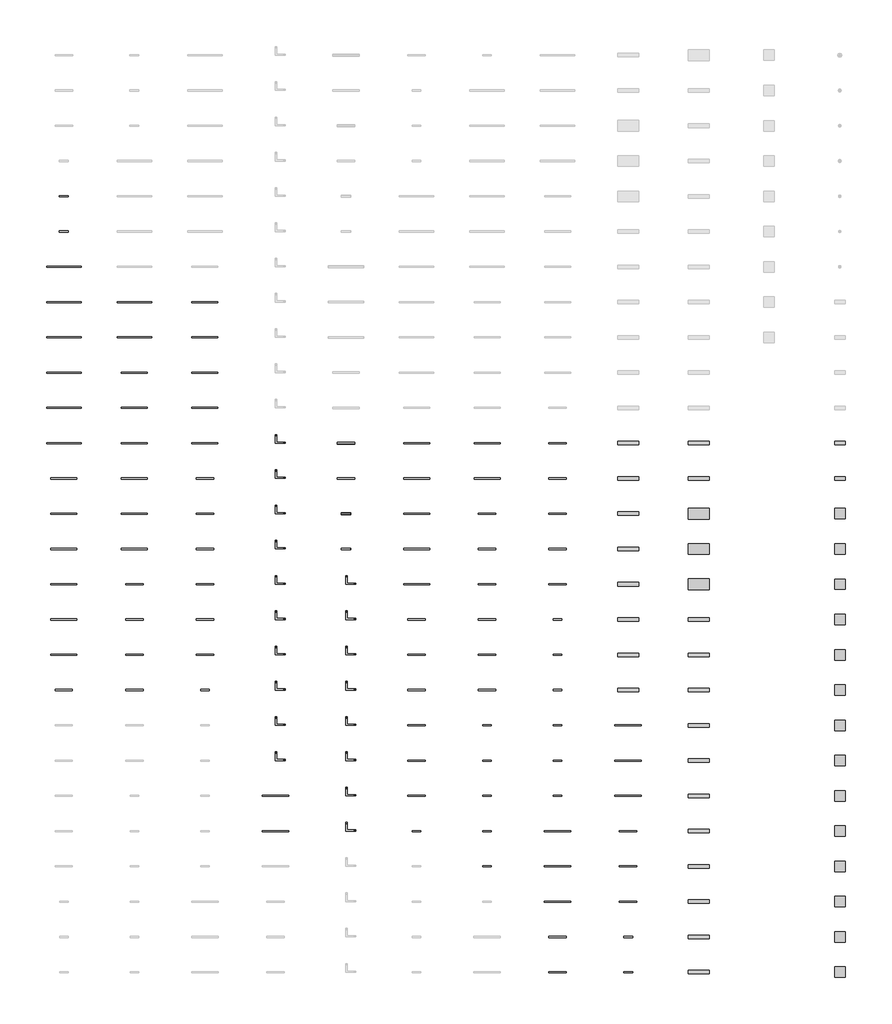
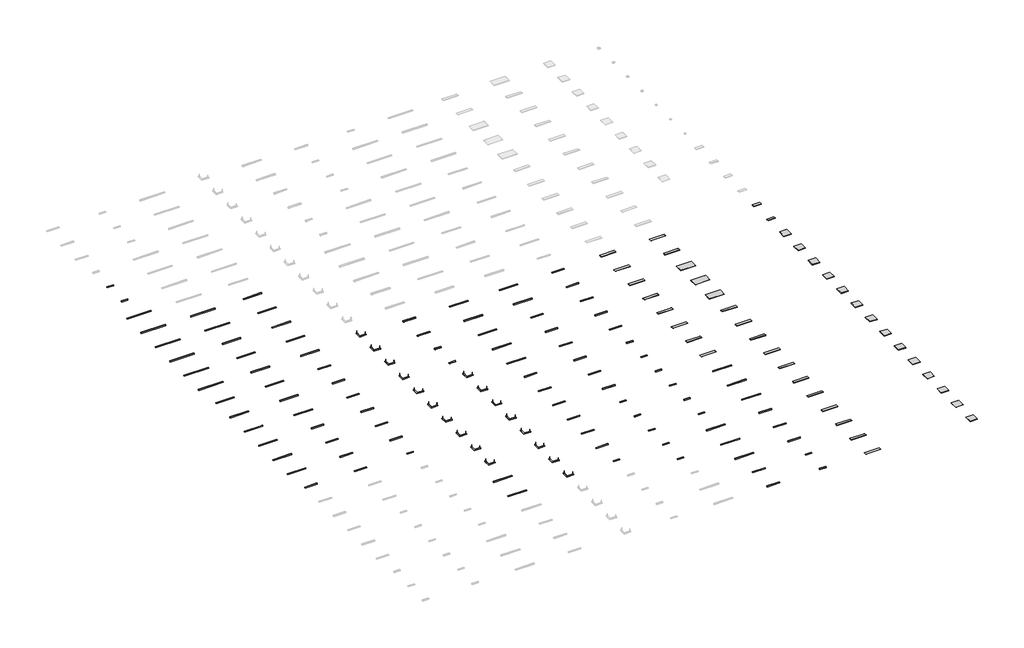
# One storey, part 6 of 7: 152 light fixtures.
"""IFC4 building model written with IfcOpenShell, lengths in millimetres."""

from ifc_helpers import new_model, si_unit, origin, place, context, project, spatial, transform, mapped, element, save
from components import light_fixture_045715e0, light_fixture_9e089268, light_fixture_96eaa53e, light_fixture_260f1384, light_fixture_90001b4d, light_fixture_5221eba1, light_fixture_b40a6a63, light_fixture_8643cc04, light_fixture_5198e44a, light_fixture_2bea209e, light_fixture_50d0131d, light_fixture_13749f30, light_fixture_eaf00b14, light_fixture_4e9e6f2b, light_fixture_f376c791, light_fixture_10212c1c, light_fixture_d129a5be

model = new_model("IFC4")

# Units and contexts
model_context = context("Model", 3, world=origin())
ifc_project = project(units=[si_unit("LENGTHUNIT", "METRE", prefix="MILLI")], contexts=[model_context])

# Site, building, storey
site = spatial("IfcSite", under=ifc_project)
building = spatial("IfcBuilding", under=site)
storey = spatial("IfcBuildingStorey", under=building, Name="Уровень 1", Elevation=0.0)

# Light fixtures
placement = place(None, origin())
light_fixture_shape = light_fixture_045715e0(model_context)
element("IfcLightFixture", 1, ObjectType="GENILED_Светильник светодиодный_Trade Linear Advanced : Trade Linear Advanced 980х65х60 60Вт Deep Черный 3000К", at=placement, inside=storey, context=model_context, shape_type="MappedRepresentation", body=[
    mapped(light_fixture_shape, transform((132000.0, 16000.0, 0.0), x_axis=(1.0, 0.0, 0.0), y_axis=(0.0, 1.0, 0.0), z_axis=(0.0, 0.0, 1.0))),
])
light_fixture_2_shape = light_fixture_9e089268(model_context)
element("IfcLightFixture", 2, ObjectType="GENILED_Светильник светодиодный_Trade Linear Advanced : Trade Linear Advanced 1472х65х60 30Вт Черный 3000К", at=placement, inside=storey, context=model_context, shape_type="MappedRepresentation", body=[
    mapped(light_fixture_2_shape, transform((132000.0, 18000.0, 0.0), x_axis=(1.0, 0.0, 0.0), y_axis=(0.0, 1.0, 0.0), z_axis=(0.0, 0.0, 1.0))),
])
element("IfcLightFixture", 3, ObjectType="GENILED_Светильник светодиодный_Trade Linear Advanced : Trade Linear Advanced 1472х65х60 60Вт Черный 3000К", at=placement, inside=storey, context=model_context, shape_type="MappedRepresentation", body=[
    mapped(light_fixture_2_shape, transform((132000.0, 20000.0, 0.0), x_axis=(1.0, 0.0, 0.0), y_axis=(0.0, 1.0, 0.0), z_axis=(0.0, 0.0, 1.0))),
])
element("IfcLightFixture", 4, ObjectType="GENILED_Светильник светодиодный_Trade Linear Advanced : Trade Linear Advanced 1472х65х60 90Вт Черный 3000К", at=placement, inside=storey, context=model_context, shape_type="MappedRepresentation", body=[
    mapped(light_fixture_2_shape, transform((132000.0, 22000.0, 0.0), x_axis=(1.0, 0.0, 0.0), y_axis=(0.0, 1.0, 0.0), z_axis=(0.0, 0.0, 1.0))),
])
element("IfcLightFixture", 5, ObjectType="GENILED_Светильник светодиодный_Trade Linear Advanced : Trade Linear Advanced 1472х65х60 30Вт Deep Черный 3000К", at=placement, inside=storey, context=model_context, shape_type="MappedRepresentation", body=[
    mapped(light_fixture_2_shape, transform((132000.0, 24000.0, 0.0), x_axis=(1.0, 0.0, 0.0), y_axis=(0.0, 1.0, 0.0), z_axis=(0.0, 0.0, 1.0))),
])
element("IfcLightFixture", 6, ObjectType="GENILED_Светильник светодиодный_Trade Linear Advanced : Trade Linear Advanced 1472х65х60 60Вт Deep Черный 3000К", at=placement, inside=storey, context=model_context, shape_type="MappedRepresentation", body=[
    mapped(light_fixture_2_shape, transform((132000.0, 26000.0, 0.0), x_axis=(1.0, 0.0, 0.0), y_axis=(0.0, 1.0, 0.0), z_axis=(0.0, 0.0, 1.0))),
])
element("IfcLightFixture", 7, ObjectType="GENILED_Светильник светодиодный_Trade Linear Advanced : Trade Linear Advanced 1472х65х60 90Вт Deep Черный 3000К", at=placement, inside=storey, context=model_context, shape_type="MappedRepresentation", body=[
    mapped(light_fixture_2_shape, transform((132000.0, 28000.0, 0.0), x_axis=(1.0, 0.0, 0.0), y_axis=(0.0, 1.0, 0.0), z_axis=(0.0, 0.0, 1.0))),
])
light_fixture_3_shape = light_fixture_96eaa53e(model_context)
element("IfcLightFixture", 8, ObjectType="GENILED_Светильник светодиодный_Trade Linear Advanced : Trade Linear Advanced 1962х65х60 40Вт Черный 3000К", at=placement, inside=storey, context=model_context, shape_type="MappedRepresentation", body=[
    mapped(light_fixture_3_shape, transform((132000.0, 30000.0, 0.0), x_axis=(1.0, 0.0, 0.0), y_axis=(0.0, 1.0, 0.0), z_axis=(0.0, 0.0, 1.0))),
])
element("IfcLightFixture", 9, ObjectType="GENILED_Светильник светодиодный_Trade Linear Advanced : Trade Linear Advanced 1962х65х60 80Вт Черный 3000К", at=placement, inside=storey, context=model_context, shape_type="MappedRepresentation", body=[
    mapped(light_fixture_3_shape, transform((132000.0, 32000.0, 0.0), x_axis=(1.0, 0.0, 0.0), y_axis=(0.0, 1.0, 0.0), z_axis=(0.0, 0.0, 1.0))),
])
element("IfcLightFixture", 10, ObjectType="GENILED_Светильник светодиодный_Trade Linear Advanced : Trade Linear Advanced 1962х65х60 120Вт Черный 3000К", at=placement, inside=storey, context=model_context, shape_type="MappedRepresentation", body=[
    mapped(light_fixture_3_shape, transform((132000.0, 34000.0, 0.0), x_axis=(1.0, 0.0, 0.0), y_axis=(0.0, 1.0, 0.0), z_axis=(0.0, 0.0, 1.0))),
])
element("IfcLightFixture", 11, ObjectType="GENILED_Светильник светодиодный_Trade Linear Advanced : Trade Linear Advanced 1962х65х60 40Вт Deep Черный 3000К", at=placement, inside=storey, context=model_context, shape_type="MappedRepresentation", body=[
    mapped(light_fixture_3_shape, transform((132000.0, 36000.0, 0.0), x_axis=(1.0, 0.0, 0.0), y_axis=(0.0, 1.0, 0.0), z_axis=(0.0, 0.0, 1.0))),
])
element("IfcLightFixture", 12, ObjectType="GENILED_Светильник светодиодный_Trade Linear Advanced : Trade Linear Advanced 1962х65х60 80Вт Deep Черный 3000К", at=placement, inside=storey, context=model_context, shape_type="MappedRepresentation", body=[
    mapped(light_fixture_3_shape, transform((132000.0, 38000.0, 0.0), x_axis=(1.0, 0.0, 0.0), y_axis=(0.0, 1.0, 0.0), z_axis=(0.0, 0.0, 1.0))),
])
element("IfcLightFixture", 13, ObjectType="GENILED_Светильник светодиодный_Trade Linear Advanced : Trade Linear Advanced 1962х65х60 120Вт Deep Черный 3000К", at=placement, inside=storey, context=model_context, shape_type="MappedRepresentation", body=[
    mapped(light_fixture_3_shape, transform((132000.0, 40000.0, 0.0), x_axis=(1.0, 0.0, 0.0), y_axis=(0.0, 1.0, 0.0), z_axis=(0.0, 0.0, 1.0))),
])
light_fixture_4_shape = light_fixture_260f1384(model_context)
element("IfcLightFixture", 14, ObjectType="GENILED_Светильник светодиодный_Trade Linear Advanced : Trade Linear Advanced 500х65х60 10Вт IP54 Черный 3000К", at=placement, inside=storey, context=model_context, shape_type="MappedRepresentation", body=[
    mapped(light_fixture_4_shape, transform((132000.0, 42000.0, 0.0), x_axis=(1.0, 0.0, 0.0), y_axis=(0.0, 1.0, 0.0), z_axis=(0.0, 0.0, 1.0))),
])
element("IfcLightFixture", 15, ObjectType="GENILED_Светильник светодиодный_Trade Linear Advanced : Trade Linear Advanced 500х65х60 20Вт IP54 Черный 3000К", at=placement, inside=storey, context=model_context, shape_type="MappedRepresentation", body=[
    mapped(light_fixture_4_shape, transform((132000.0, 44000.0, 0.0), x_axis=(1.0, 0.0, 0.0), y_axis=(0.0, 1.0, 0.0), z_axis=(0.0, 0.0, 1.0))),
])
element("IfcLightFixture", 16, ObjectType="GENILED_Светильник светодиодный_Trade Linear Advanced : Trade Linear Advanced 980x65x60 60Вт Черный 4000К", at=placement, inside=storey, context=model_context, shape_type="MappedRepresentation", body=[
    mapped(light_fixture_shape, transform((136000.0, 16000.0, 0.0), x_axis=(1.0, 0.0, 0.0), y_axis=(0.0, 1.0, 0.0), z_axis=(0.0, 0.0, 1.0))),
])
element("IfcLightFixture", 17, ObjectType="GENILED_Светильник светодиодный_Trade Linear Advanced : Trade Linear Advanced 980x65x60 20Вт Deep Черный 4000К", at=placement, inside=storey, context=model_context, shape_type="MappedRepresentation", body=[
    mapped(light_fixture_shape, transform((136000.0, 18000.0, 0.0), x_axis=(1.0, 0.0, 0.0), y_axis=(0.0, 1.0, 0.0), z_axis=(0.0, 0.0, 1.0))),
])
element("IfcLightFixture", 18, ObjectType="GENILED_Светильник светодиодный_Trade Linear Advanced : Trade Linear Advanced 980x65x60 40Вт Deep Черный 4000К", at=placement, inside=storey, context=model_context, shape_type="MappedRepresentation", body=[
    mapped(light_fixture_shape, transform((136000.0, 20000.0, 0.0), x_axis=(1.0, 0.0, 0.0), y_axis=(0.0, 1.0, 0.0), z_axis=(0.0, 0.0, 1.0))),
])
element("IfcLightFixture", 19, ObjectType="GENILED_Светильник светодиодный_Trade Linear Advanced : Trade Linear Advanced 980x65x60 60Вт Deep Черный 4000К", at=placement, inside=storey, context=model_context, shape_type="MappedRepresentation", body=[
    mapped(light_fixture_shape, transform((136000.0, 22000.0, 0.0), x_axis=(1.0, 0.0, 0.0), y_axis=(0.0, 1.0, 0.0), z_axis=(0.0, 0.0, 1.0))),
])
element("IfcLightFixture", 20, ObjectType="GENILED_Светильник светодиодный_Trade Linear Advanced : Trade Linear Advanced 1472x65x60 30Вт Черный 4000К", at=placement, inside=storey, context=model_context, shape_type="MappedRepresentation", body=[
    mapped(light_fixture_2_shape, transform((136000.0, 24000.0, 0.0), x_axis=(1.0, 0.0, 0.0), y_axis=(0.0, 1.0, 0.0), z_axis=(0.0, 0.0, 1.0))),
])
element("IfcLightFixture", 21, ObjectType="GENILED_Светильник светодиодный_Trade Linear Advanced : Trade Linear Advanced 1472x65x60 60Вт Черный 4000К", at=placement, inside=storey, context=model_context, shape_type="MappedRepresentation", body=[
    mapped(light_fixture_2_shape, transform((136000.0, 26000.0, 0.0), x_axis=(1.0, 0.0, 0.0), y_axis=(0.0, 1.0, 0.0), z_axis=(0.0, 0.0, 1.0))),
])
element("IfcLightFixture", 22, ObjectType="GENILED_Светильник светодиодный_Trade Linear Advanced : Trade Linear Advanced 1472x65x60 90Вт Черный 4000К", at=placement, inside=storey, context=model_context, shape_type="MappedRepresentation", body=[
    mapped(light_fixture_2_shape, transform((136000.0, 28000.0, 0.0), x_axis=(1.0, 0.0, 0.0), y_axis=(0.0, 1.0, 0.0), z_axis=(0.0, 0.0, 1.0))),
])
element("IfcLightFixture", 23, ObjectType="GENILED_Светильник светодиодный_Trade Linear Advanced : Trade Linear Advanced 1472x65x60 30Вт Deep Черный 4000К", at=placement, inside=storey, context=model_context, shape_type="MappedRepresentation", body=[
    mapped(light_fixture_2_shape, transform((136000.0, 30000.0, 0.0), x_axis=(1.0, 0.0, 0.0), y_axis=(0.0, 1.0, 0.0), z_axis=(0.0, 0.0, 1.0))),
])
element("IfcLightFixture", 24, ObjectType="GENILED_Светильник светодиодный_Trade Linear Advanced : Trade Linear Advanced 1472x65x60 60Вт Deep Черный 4000К", at=placement, inside=storey, context=model_context, shape_type="MappedRepresentation", body=[
    mapped(light_fixture_2_shape, transform((136000.0, 32000.0, 0.0), x_axis=(1.0, 0.0, 0.0), y_axis=(0.0, 1.0, 0.0), z_axis=(0.0, 0.0, 1.0))),
])
element("IfcLightFixture", 25, ObjectType="GENILED_Светильник светодиодный_Trade Linear Advanced : Trade Linear Advanced 1472x65x60 90Вт Deep Черный 4000К", at=placement, inside=storey, context=model_context, shape_type="MappedRepresentation", body=[
    mapped(light_fixture_2_shape, transform((136000.0, 34000.0, 0.0), x_axis=(1.0, 0.0, 0.0), y_axis=(0.0, 1.0, 0.0), z_axis=(0.0, 0.0, 1.0))),
])
element("IfcLightFixture", 26, ObjectType="GENILED_Светильник светодиодный_Trade Linear Advanced : Trade Linear Advanced 1962x65x60 40Вт Черный 4000К", at=placement, inside=storey, context=model_context, shape_type="MappedRepresentation", body=[
    mapped(light_fixture_3_shape, transform((136000.0, 36000.0, 0.0), x_axis=(1.0, 0.0, 0.0), y_axis=(0.0, 1.0, 0.0), z_axis=(0.0, 0.0, 1.0))),
])
element("IfcLightFixture", 27, ObjectType="GENILED_Светильник светодиодный_Trade Linear Advanced : Trade Linear Advanced 1962x65x60 80Вт Черный 4000К", at=placement, inside=storey, context=model_context, shape_type="MappedRepresentation", body=[
    mapped(light_fixture_3_shape, transform((136000.0, 38000.0, 0.0), x_axis=(1.0, 0.0, 0.0), y_axis=(0.0, 1.0, 0.0), z_axis=(0.0, 0.0, 1.0))),
])
light_fixture_5_shape = light_fixture_90001b4d(model_context)
element("IfcLightFixture", 28, ObjectType="GENILED_Светильник светодиодный_Trade Linear Advanced : Trade Linear Advanced 490x65x60 30Вт Deep Черный 5000К", at=placement, inside=storey, context=model_context, shape_type="MappedRepresentation", body=[
    mapped(light_fixture_5_shape, transform((140000.0, 16000.0, 0.0), x_axis=(1.0, 0.0, 0.0), y_axis=(0.0, 1.0, 0.0), z_axis=(0.0, 0.0, 1.0))),
])
element("IfcLightFixture", 29, ObjectType="GENILED_Светильник светодиодный_Trade Linear Advanced : Trade Linear Advanced 980x65x60 20Вт Черный 5000К", at=placement, inside=storey, context=model_context, shape_type="MappedRepresentation", body=[
    mapped(light_fixture_shape, transform((140000.0, 18000.0, 0.0), x_axis=(1.0, 0.0, 0.0), y_axis=(0.0, 1.0, 0.0), z_axis=(0.0, 0.0, 1.0))),
])
element("IfcLightFixture", 30, ObjectType="GENILED_Светильник светодиодный_Trade Linear Advanced : Trade Linear Advanced 980x65x60 40Вт Черный 5000К", at=placement, inside=storey, context=model_context, shape_type="MappedRepresentation", body=[
    mapped(light_fixture_shape, transform((140000.0, 20000.0, 0.0), x_axis=(1.0, 0.0, 0.0), y_axis=(0.0, 1.0, 0.0), z_axis=(0.0, 0.0, 1.0))),
])
element("IfcLightFixture", 31, ObjectType="GENILED_Светильник светодиодный_Trade Linear Advanced : Trade Linear Advanced 980x65x60 60Вт Черный 5000К", at=placement, inside=storey, context=model_context, shape_type="MappedRepresentation", body=[
    mapped(light_fixture_shape, transform((140000.0, 22000.0, 0.0), x_axis=(1.0, 0.0, 0.0), y_axis=(0.0, 1.0, 0.0), z_axis=(0.0, 0.0, 1.0))),
])
element("IfcLightFixture", 32, ObjectType="GENILED_Светильник светодиодный_Trade Linear Advanced : Trade Linear Advanced 980x65x60 20Вт Deep Черный 5000К", at=placement, inside=storey, context=model_context, shape_type="MappedRepresentation", body=[
    mapped(light_fixture_shape, transform((140000.0, 24000.0, 0.0), x_axis=(1.0, 0.0, 0.0), y_axis=(0.0, 1.0, 0.0), z_axis=(0.0, 0.0, 1.0))),
])
element("IfcLightFixture", 33, ObjectType="GENILED_Светильник светодиодный_Trade Linear Advanced : Trade Linear Advanced 980x65x60 40Вт Deep Черный 5000К", at=placement, inside=storey, context=model_context, shape_type="MappedRepresentation", body=[
    mapped(light_fixture_shape, transform((140000.0, 26000.0, 0.0), x_axis=(1.0, 0.0, 0.0), y_axis=(0.0, 1.0, 0.0), z_axis=(0.0, 0.0, 1.0))),
])
element("IfcLightFixture", 34, ObjectType="GENILED_Светильник светодиодный_Trade Linear Advanced : Trade Linear Advanced 980x65x60 60Вт Deep Черный 5000К", at=placement, inside=storey, context=model_context, shape_type="MappedRepresentation", body=[
    mapped(light_fixture_shape, transform((140000.0, 28000.0, 0.0), x_axis=(1.0, 0.0, 0.0), y_axis=(0.0, 1.0, 0.0), z_axis=(0.0, 0.0, 1.0))),
])
element("IfcLightFixture", 35, ObjectType="GENILED_Светильник светодиодный_Trade Linear Advanced : Trade Linear Advanced 1472x65x60 30Вт Черный 5000К", at=placement, inside=storey, context=model_context, shape_type="MappedRepresentation", body=[
    mapped(light_fixture_2_shape, transform((140000.0, 30000.0, 0.0), x_axis=(1.0, 0.0, 0.0), y_axis=(0.0, 1.0, 0.0), z_axis=(0.0, 0.0, 1.0))),
])
element("IfcLightFixture", 36, ObjectType="GENILED_Светильник светодиодный_Trade Linear Advanced : Trade Linear Advanced 1472x65x60 60Вт Черный 5000К", at=placement, inside=storey, context=model_context, shape_type="MappedRepresentation", body=[
    mapped(light_fixture_2_shape, transform((140000.0, 32000.0, 0.0), x_axis=(1.0, 0.0, 0.0), y_axis=(0.0, 1.0, 0.0), z_axis=(0.0, 0.0, 1.0))),
])
element("IfcLightFixture", 37, ObjectType="GENILED_Светильник светодиодный_Trade Linear Advanced : Trade Linear Advanced 1472x65x60 90Вт Черный 5000К", at=placement, inside=storey, context=model_context, shape_type="MappedRepresentation", body=[
    mapped(light_fixture_2_shape, transform((140000.0, 34000.0, 0.0), x_axis=(1.0, 0.0, 0.0), y_axis=(0.0, 1.0, 0.0), z_axis=(0.0, 0.0, 1.0))),
])
element("IfcLightFixture", 38, ObjectType="GENILED_Светильник светодиодный_Trade Linear Advanced : Trade Linear Advanced 1472x65x60 30Вт Deep Черный 5000К", at=placement, inside=storey, context=model_context, shape_type="MappedRepresentation", body=[
    mapped(light_fixture_2_shape, transform((140000.0, 36000.0, 0.0), x_axis=(1.0, 0.0, 0.0), y_axis=(0.0, 1.0, 0.0), z_axis=(0.0, 0.0, 1.0))),
])
element("IfcLightFixture", 39, ObjectType="GENILED_Светильник светодиодный_Trade Linear Advanced : Trade Linear Advanced 1472x65x60 60Вт Deep Черный 5000К", at=placement, inside=storey, context=model_context, shape_type="MappedRepresentation", body=[
    mapped(light_fixture_2_shape, transform((140000.0, 38000.0, 0.0), x_axis=(1.0, 0.0, 0.0), y_axis=(0.0, 1.0, 0.0), z_axis=(0.0, 0.0, 1.0))),
])
light_fixture_6_shape = light_fixture_5221eba1(model_context)
element("IfcLightFixture", 40, ObjectType="GENILED_Светильник светодиодный_Trade Linear Advanced : Trade Linear Advanced 1500x65x60 60Вт IP54 Черный 5000К", at=placement, inside=storey, context=model_context, shape_type="MappedRepresentation", body=[
    mapped(light_fixture_6_shape, transform((144000.0, 8000.0, 0.0), x_axis=(1.0, 0.0, 0.0), y_axis=(0.0, 1.0, 0.0), z_axis=(0.0, 0.0, 1.0))),
])
element("IfcLightFixture", 41, ObjectType="GENILED_Светильник светодиодный_Trade Linear Advanced : Trade Linear Advanced 1500x65x60 90Вт IP54 Черный 5000К", at=placement, inside=storey, context=model_context, shape_type="MappedRepresentation", body=[
    mapped(light_fixture_6_shape, transform((144000.0, 10000.0, 0.0), x_axis=(1.0, 0.0, 0.0), y_axis=(0.0, 1.0, 0.0), z_axis=(0.0, 0.0, 1.0))),
])
light_fixture_7_shape = light_fixture_b40a6a63(model_context)
element("IfcLightFixture", 42, ObjectType="GENILED_Светильник светодиодный_Trade Linear L Advanced : Trade Linear Advanced 492-542х65х60 20Вт Черный 3000К", at=placement, inside=storey, context=model_context, shape_type="MappedRepresentation", body=[
    mapped(light_fixture_7_shape, transform((144000.0, 12000.0, 0.0), x_axis=(1.0, 0.0, 0.0), y_axis=(0.0, 1.0, 0.0), z_axis=(0.0, 0.0, 1.0))),
])
element("IfcLightFixture", 43, ObjectType="GENILED_Светильник светодиодный_Trade Linear L Advanced : Trade Linear Advanced 492-542х65х60 40Вт Черный 3000К", at=placement, inside=storey, context=model_context, shape_type="MappedRepresentation", body=[
    mapped(light_fixture_7_shape, transform((144000.0, 14000.0, 0.0), x_axis=(1.0, 0.0, 0.0), y_axis=(0.0, 1.0, 0.0), z_axis=(0.0, 0.0, 1.0))),
])
element("IfcLightFixture", 44, ObjectType="GENILED_Светильник светодиодный_Trade Linear L Advanced : Trade Linear Advanced 492-542х65х60 60Вт Черный 3000К", at=placement, inside=storey, context=model_context, shape_type="MappedRepresentation", body=[
    mapped(light_fixture_7_shape, transform((144000.0, 16000.0, 0.0), x_axis=(1.0, 0.0, 0.0), y_axis=(0.0, 1.0, 0.0), z_axis=(0.0, 0.0, 1.0))),
])
element("IfcLightFixture", 45, ObjectType="GENILED_Светильник светодиодный_Trade Linear L Advanced : Trade Linear Advanced 492-542х65х60 20Вт Deep Черный 3000К", at=placement, inside=storey, context=model_context, shape_type="MappedRepresentation", body=[
    mapped(light_fixture_7_shape, transform((144000.0, 18000.0, 0.0), x_axis=(1.0, 0.0, 0.0), y_axis=(0.0, 1.0, 0.0), z_axis=(0.0, 0.0, 1.0))),
])
element("IfcLightFixture", 46, ObjectType="GENILED_Светильник светодиодный_Trade Linear L Advanced : Trade Linear Advanced 492-542х65х60 40Вт Deep Черный 3000К", at=placement, inside=storey, context=model_context, shape_type="MappedRepresentation", body=[
    mapped(light_fixture_7_shape, transform((144000.0, 20000.0, 0.0), x_axis=(1.0, 0.0, 0.0), y_axis=(0.0, 1.0, 0.0), z_axis=(0.0, 0.0, 1.0))),
])
element("IfcLightFixture", 47, ObjectType="GENILED_Светильник светодиодный_Trade Linear L Advanced : Trade Linear Advanced 492-542х65х60 60Вт Deep Черный 3000К", at=placement, inside=storey, context=model_context, shape_type="MappedRepresentation", body=[
    mapped(light_fixture_7_shape, transform((144000.0, 22000.0, 0.0), x_axis=(1.0, 0.0, 0.0), y_axis=(0.0, 1.0, 0.0), z_axis=(0.0, 0.0, 1.0))),
])
element("IfcLightFixture", 48, ObjectType="GENILED_Светильник светодиодный_Trade Linear L Advanced : Trade Linear Advanced 492-542x65x60 20Вт Черный 4000К", at=placement, inside=storey, context=model_context, shape_type="MappedRepresentation", body=[
    mapped(light_fixture_7_shape, transform((144000.0, 24000.0, 0.0), x_axis=(1.0, 0.0, 0.0), y_axis=(0.0, 1.0, 0.0), z_axis=(0.0, 0.0, 1.0))),
])
element("IfcLightFixture", 49, ObjectType="GENILED_Светильник светодиодный_Trade Linear L Advanced : Trade Linear Advanced 492-542x65x60 40Вт Черный 4000К", at=placement, inside=storey, context=model_context, shape_type="MappedRepresentation", body=[
    mapped(light_fixture_7_shape, transform((144000.0, 26000.0, 0.0), x_axis=(1.0, 0.0, 0.0), y_axis=(0.0, 1.0, 0.0), z_axis=(0.0, 0.0, 1.0))),
])
element("IfcLightFixture", 50, ObjectType="GENILED_Светильник светодиодный_Trade Linear L Advanced : Trade Linear Advanced 492-542x65x60 60Вт Черный 4000К", at=placement, inside=storey, context=model_context, shape_type="MappedRepresentation", body=[
    mapped(light_fixture_7_shape, transform((144000.0, 28000.0, 0.0), x_axis=(1.0, 0.0, 0.0), y_axis=(0.0, 1.0, 0.0), z_axis=(0.0, 0.0, 1.0))),
])
element("IfcLightFixture", 51, ObjectType="GENILED_Светильник светодиодный_Trade Linear L Advanced : Trade Linear Advanced 492-542x65x60 20Вт Deep Черный 4000К", at=placement, inside=storey, context=model_context, shape_type="MappedRepresentation", body=[
    mapped(light_fixture_7_shape, transform((144000.0, 30000.0, 0.0), x_axis=(1.0, 0.0, 0.0), y_axis=(0.0, 1.0, 0.0), z_axis=(0.0, 0.0, 1.0))),
])
element("IfcLightFixture", 52, ObjectType="GENILED_Светильник светодиодный_Trade Linear L Standart : Trade Linear Standart 492-542x65x60 40Вт 90Ra Deep Белый 4000К", at=placement, inside=storey, context=model_context, shape_type="MappedRepresentation", body=[
    mapped(light_fixture_7_shape, transform((148000.0, 8000.0, 0.0), x_axis=(1.0, 0.0, 0.0), y_axis=(0.0, 1.0, 0.0), z_axis=(0.0, 0.0, 1.0))),
])
element("IfcLightFixture", 53, ObjectType="GENILED_Светильник светодиодный_Trade Linear L Standart : Trade Linear Standart 492-542x65x60 60Вт 90Ra Deep Белый 4000К", at=placement, inside=storey, context=model_context, shape_type="MappedRepresentation", body=[
    mapped(light_fixture_7_shape, transform((148000.0, 10000.0, 0.0), x_axis=(1.0, 0.0, 0.0), y_axis=(0.0, 1.0, 0.0), z_axis=(0.0, 0.0, 1.0))),
])
element("IfcLightFixture", 54, ObjectType="GENILED_Светильник светодиодный_Trade Linear L Standart : Trade Linear Standart 492-542x65x60 20Вт 5000К", at=placement, inside=storey, context=model_context, shape_type="MappedRepresentation", body=[
    mapped(light_fixture_7_shape, transform((148000.0, 12000.0, 0.0), x_axis=(1.0, 0.0, 0.0), y_axis=(0.0, 1.0, 0.0), z_axis=(0.0, 0.0, 1.0))),
])
element("IfcLightFixture", 55, ObjectType="GENILED_Светильник светодиодный_Trade Linear L Standart : Trade Linear Standart 492-542x65x60 40Вт 5000К", at=placement, inside=storey, context=model_context, shape_type="MappedRepresentation", body=[
    mapped(light_fixture_7_shape, transform((148000.0, 14000.0, 0.0), x_axis=(1.0, 0.0, 0.0), y_axis=(0.0, 1.0, 0.0), z_axis=(0.0, 0.0, 1.0))),
])
element("IfcLightFixture", 56, ObjectType="GENILED_Светильник светодиодный_Trade Linear L Standart : Trade Linear Standart 492-542x65x60 60Вт 5000К", at=placement, inside=storey, context=model_context, shape_type="MappedRepresentation", body=[
    mapped(light_fixture_7_shape, transform((148000.0, 16000.0, 0.0), x_axis=(1.0, 0.0, 0.0), y_axis=(0.0, 1.0, 0.0), z_axis=(0.0, 0.0, 1.0))),
])
element("IfcLightFixture", 57, ObjectType="GENILED_Светильник светодиодный_Trade Linear L Standart : Trade Linear Standart 492-542x65x60 20Вт Deep 5000К", at=placement, inside=storey, context=model_context, shape_type="MappedRepresentation", body=[
    mapped(light_fixture_7_shape, transform((148000.0, 18000.0, 0.0), x_axis=(1.0, 0.0, 0.0), y_axis=(0.0, 1.0, 0.0), z_axis=(0.0, 0.0, 1.0))),
])
element("IfcLightFixture", 58, ObjectType="GENILED_Светильник светодиодный_Trade Linear L Standart : Trade Linear Standart 492-542x65x60 40Вт Deep 5000К", at=placement, inside=storey, context=model_context, shape_type="MappedRepresentation", body=[
    mapped(light_fixture_7_shape, transform((148000.0, 20000.0, 0.0), x_axis=(1.0, 0.0, 0.0), y_axis=(0.0, 1.0, 0.0), z_axis=(0.0, 0.0, 1.0))),
])
element("IfcLightFixture", 59, ObjectType="GENILED_Светильник светодиодный_Trade Linear L Standart : Trade Linear Standart 492-542x65x60 60Вт Deep 5000К", at=placement, inside=storey, context=model_context, shape_type="MappedRepresentation", body=[
    mapped(light_fixture_7_shape, transform((148000.0, 22000.0, 0.0), x_axis=(1.0, 0.0, 0.0), y_axis=(0.0, 1.0, 0.0), z_axis=(0.0, 0.0, 1.0))),
])
light_fixture_8_shape = light_fixture_8643cc04(model_context)
element("IfcLightFixture", 60, ObjectType="GENILED_Светильник светодиодный_Trade Linear Standart Встраиваемый : Встраиваемый Trade Linear Standart 490x65x60 20Вт Deep Опал Черный", at=placement, inside=storey, context=model_context, shape_type="MappedRepresentation", body=[
    mapped(light_fixture_8_shape, transform((148000.0, 24000.0, 0.0), x_axis=(1.0, 0.0, 0.0), y_axis=(0.0, 1.0, 0.0), z_axis=(0.0, 0.0, 1.0))),
])
element("IfcLightFixture", 61, ObjectType="GENILED_Светильник светодиодный_Trade Linear Standart Встраиваемый : Встраиваемый Trade Linear Standart 490x65x60 30Вт Deep Опал Черный", at=placement, inside=storey, context=model_context, shape_type="MappedRepresentation", body=[
    mapped(light_fixture_8_shape, transform((148000.0, 26000.0, 0.0), x_axis=(1.0, 0.0, 0.0), y_axis=(0.0, 1.0, 0.0), z_axis=(0.0, 0.0, 1.0))),
])
light_fixture_9_shape = light_fixture_5198e44a(model_context)
element("IfcLightFixture", 62, ObjectType="GENILED_Светильник светодиодный_Trade Linear Standart Встраиваемый : Встраиваемый Trade Linear Standart 980x65x60 40Вт Deep Опал Черный", at=placement, inside=storey, context=model_context, shape_type="MappedRepresentation", body=[
    mapped(light_fixture_9_shape, transform((148000.0, 28000.0, 0.0), x_axis=(1.0, 0.0, 0.0), y_axis=(0.0, 1.0, 0.0), z_axis=(0.0, 0.0, 1.0))),
])
element("IfcLightFixture", 63, ObjectType="GENILED_Светильник светодиодный_Trade Linear Standart Встраиваемый : Встраиваемый Trade Linear Standart 980x65x60 60Вт Deep Опал Черный", at=placement, inside=storey, context=model_context, shape_type="MappedRepresentation", body=[
    mapped(light_fixture_9_shape, transform((148000.0, 30000.0, 0.0), x_axis=(1.0, 0.0, 0.0), y_axis=(0.0, 1.0, 0.0), z_axis=(0.0, 0.0, 1.0))),
])
element("IfcLightFixture", 64, ObjectType="GENILED_Светильник светодиодный_Trade Linear Standart : Trade Linear Standart 490x65x60 30Вт Deep Черный 3000К", at=placement, inside=storey, context=model_context, shape_type="MappedRepresentation", body=[
    mapped(light_fixture_5_shape, transform((152000.0, 8000.0, 0.0), x_axis=(1.0, 0.0, 0.0), y_axis=(0.0, 1.0, 0.0), z_axis=(0.0, 0.0, 1.0))),
])
element("IfcLightFixture", 65, ObjectType="GENILED_Светильник светодиодный_Trade Linear Standart : Trade Linear Standart 980x65x60 20Вт Черный 3000К", at=placement, inside=storey, context=model_context, shape_type="MappedRepresentation", body=[
    mapped(light_fixture_shape, transform((152000.0, 10000.0, 0.0), x_axis=(1.0, 0.0, 0.0), y_axis=(0.0, 1.0, 0.0), z_axis=(0.0, 0.0, 1.0))),
])
element("IfcLightFixture", 66, ObjectType="GENILED_Светильник светодиодный_Trade Linear Standart : Trade Linear Standart 980x65x60 40Вт Черный 3000К", at=placement, inside=storey, context=model_context, shape_type="MappedRepresentation", body=[
    mapped(light_fixture_shape, transform((152000.0, 12000.0, 0.0), x_axis=(1.0, 0.0, 0.0), y_axis=(0.0, 1.0, 0.0), z_axis=(0.0, 0.0, 1.0))),
])
element("IfcLightFixture", 67, ObjectType="GENILED_Светильник светодиодный_Trade Linear Standart : Trade Linear Standart 980x65x60 60Вт Черный 3000К", at=placement, inside=storey, context=model_context, shape_type="MappedRepresentation", body=[
    mapped(light_fixture_shape, transform((152000.0, 14000.0, 0.0), x_axis=(1.0, 0.0, 0.0), y_axis=(0.0, 1.0, 0.0), z_axis=(0.0, 0.0, 1.0))),
])
element("IfcLightFixture", 68, ObjectType="GENILED_Светильник светодиодный_Trade Linear Standart : Trade Linear Standart 980x65x60 20Вт Deep Черный 3000К", at=placement, inside=storey, context=model_context, shape_type="MappedRepresentation", body=[
    mapped(light_fixture_shape, transform((152000.0, 16000.0, 0.0), x_axis=(1.0, 0.0, 0.0), y_axis=(0.0, 1.0, 0.0), z_axis=(0.0, 0.0, 1.0))),
])
element("IfcLightFixture", 69, ObjectType="GENILED_Светильник светодиодный_Trade Linear Standart : Trade Linear Standart 980x65x60 40Вт Deep Черный 3000К", at=placement, inside=storey, context=model_context, shape_type="MappedRepresentation", body=[
    mapped(light_fixture_shape, transform((152000.0, 18000.0, 0.0), x_axis=(1.0, 0.0, 0.0), y_axis=(0.0, 1.0, 0.0), z_axis=(0.0, 0.0, 1.0))),
])
element("IfcLightFixture", 70, ObjectType="GENILED_Светильник светодиодный_Trade Linear Standart : Trade Linear Standart 980x65x60 60Вт Deep Черный 3000К", at=placement, inside=storey, context=model_context, shape_type="MappedRepresentation", body=[
    mapped(light_fixture_shape, transform((152000.0, 20000.0, 0.0), x_axis=(1.0, 0.0, 0.0), y_axis=(0.0, 1.0, 0.0), z_axis=(0.0, 0.0, 1.0))),
])
element("IfcLightFixture", 71, ObjectType="GENILED_Светильник светодиодный_Trade Linear Standart : Trade Linear Standart 1472x65x60 30Вт Черный 3000К", at=placement, inside=storey, context=model_context, shape_type="MappedRepresentation", body=[
    mapped(light_fixture_2_shape, transform((152000.0, 22000.0, 0.0), x_axis=(1.0, 0.0, 0.0), y_axis=(0.0, 1.0, 0.0), z_axis=(0.0, 0.0, 1.0))),
])
element("IfcLightFixture", 72, ObjectType="GENILED_Светильник светодиодный_Trade Linear Standart : Trade Linear Standart 1472x65x60 60Вт Черный 3000К", at=placement, inside=storey, context=model_context, shape_type="MappedRepresentation", body=[
    mapped(light_fixture_2_shape, transform((152000.0, 24000.0, 0.0), x_axis=(1.0, 0.0, 0.0), y_axis=(0.0, 1.0, 0.0), z_axis=(0.0, 0.0, 1.0))),
])
element("IfcLightFixture", 73, ObjectType="GENILED_Светильник светодиодный_Trade Linear Standart : Trade Linear Standart 1472x65x60 90Вт Черный 3000К", at=placement, inside=storey, context=model_context, shape_type="MappedRepresentation", body=[
    mapped(light_fixture_2_shape, transform((152000.0, 26000.0, 0.0), x_axis=(1.0, 0.0, 0.0), y_axis=(0.0, 1.0, 0.0), z_axis=(0.0, 0.0, 1.0))),
])
element("IfcLightFixture", 74, ObjectType="GENILED_Светильник светодиодный_Trade Linear Standart : Trade Linear Standart 1472x65x60 30Вт Deep Черный 3000К", at=placement, inside=storey, context=model_context, shape_type="MappedRepresentation", body=[
    mapped(light_fixture_2_shape, transform((152000.0, 28000.0, 0.0), x_axis=(1.0, 0.0, 0.0), y_axis=(0.0, 1.0, 0.0), z_axis=(0.0, 0.0, 1.0))),
])
element("IfcLightFixture", 75, ObjectType="GENILED_Светильник светодиодный_Trade Linear Standart : Trade Linear Standart 1472x65x60 60Вт Deep Черный 3000К", at=placement, inside=storey, context=model_context, shape_type="MappedRepresentation", body=[
    mapped(light_fixture_2_shape, transform((152000.0, 30000.0, 0.0), x_axis=(1.0, 0.0, 0.0), y_axis=(0.0, 1.0, 0.0), z_axis=(0.0, 0.0, 1.0))),
])
element("IfcLightFixture", 76, ObjectType="GENILED_Светильник светодиодный_Trade Linear Standart : Trade Linear Standart 490x65x60 20Вт 90Ra Белый 4000К", at=placement, inside=storey, context=model_context, shape_type="MappedRepresentation", body=[
    mapped(light_fixture_5_shape, transform((156000.0, 6000.0, 0.0), x_axis=(1.0, 0.0, 0.0), y_axis=(0.0, 1.0, 0.0), z_axis=(0.0, 0.0, 1.0))),
])
element("IfcLightFixture", 77, ObjectType="GENILED_Светильник светодиодный_Trade Linear Standart : Trade Linear Standart 490x65x60 30Вт 90Ra Белый 4000К", at=placement, inside=storey, context=model_context, shape_type="MappedRepresentation", body=[
    mapped(light_fixture_5_shape, transform((156000.0, 8000.0, 0.0), x_axis=(1.0, 0.0, 0.0), y_axis=(0.0, 1.0, 0.0), z_axis=(0.0, 0.0, 1.0))),
])
element("IfcLightFixture", 78, ObjectType="GENILED_Светильник светодиодный_Trade Linear Standart : Trade Linear Standart 490x65x60 10Вт 90Ra Deep Белый 4000К", at=placement, inside=storey, context=model_context, shape_type="MappedRepresentation", body=[
    mapped(light_fixture_5_shape, transform((156000.0, 10000.0, 0.0), x_axis=(1.0, 0.0, 0.0), y_axis=(0.0, 1.0, 0.0), z_axis=(0.0, 0.0, 1.0))),
])
element("IfcLightFixture", 79, ObjectType="GENILED_Светильник светодиодный_Trade Linear Standart : Trade Linear Standart 490x65x60 20Вт 90Ra Deep Белый 4000К", at=placement, inside=storey, context=model_context, shape_type="MappedRepresentation", body=[
    mapped(light_fixture_5_shape, transform((156000.0, 12000.0, 0.0), x_axis=(1.0, 0.0, 0.0), y_axis=(0.0, 1.0, 0.0), z_axis=(0.0, 0.0, 1.0))),
])
element("IfcLightFixture", 80, ObjectType="GENILED_Светильник светодиодный_Trade Linear Standart : Trade Linear Standart 490x65x60 30Вт 90Ra Deep Белый 4000К", at=placement, inside=storey, context=model_context, shape_type="MappedRepresentation", body=[
    mapped(light_fixture_5_shape, transform((156000.0, 14000.0, 0.0), x_axis=(1.0, 0.0, 0.0), y_axis=(0.0, 1.0, 0.0), z_axis=(0.0, 0.0, 1.0))),
])
element("IfcLightFixture", 81, ObjectType="GENILED_Светильник светодиодный_Trade Linear Standart : Trade Linear Standart 980x65x60 20Вт 90Ra Белый 4000К", at=placement, inside=storey, context=model_context, shape_type="MappedRepresentation", body=[
    mapped(light_fixture_shape, transform((156000.0, 16000.0, 0.0), x_axis=(1.0, 0.0, 0.0), y_axis=(0.0, 1.0, 0.0), z_axis=(0.0, 0.0, 1.0))),
])
element("IfcLightFixture", 82, ObjectType="GENILED_Светильник светодиодный_Trade Linear Standart : Trade Linear Standart 980x65x60 40Вт 90Ra Белый 4000К", at=placement, inside=storey, context=model_context, shape_type="MappedRepresentation", body=[
    mapped(light_fixture_shape, transform((156000.0, 18000.0, 0.0), x_axis=(1.0, 0.0, 0.0), y_axis=(0.0, 1.0, 0.0), z_axis=(0.0, 0.0, 1.0))),
])
element("IfcLightFixture", 83, ObjectType="GENILED_Светильник светодиодный_Trade Linear Standart : Trade Linear Standart 980x65x60 60Вт 90Ra Белый 4000К", at=placement, inside=storey, context=model_context, shape_type="MappedRepresentation", body=[
    mapped(light_fixture_shape, transform((156000.0, 20000.0, 0.0), x_axis=(1.0, 0.0, 0.0), y_axis=(0.0, 1.0, 0.0), z_axis=(0.0, 0.0, 1.0))),
])
element("IfcLightFixture", 84, ObjectType="GENILED_Светильник светодиодный_Trade Linear Standart : Trade Linear Standart 980x65x60 20Вт 90Ra Deep Белый 4000К", at=placement, inside=storey, context=model_context, shape_type="MappedRepresentation", body=[
    mapped(light_fixture_shape, transform((156000.0, 22000.0, 0.0), x_axis=(1.0, 0.0, 0.0), y_axis=(0.0, 1.0, 0.0), z_axis=(0.0, 0.0, 1.0))),
])
element("IfcLightFixture", 85, ObjectType="GENILED_Светильник светодиодный_Trade Linear Standart : Trade Linear Standart 980x65x60 40Вт 90Ra Deep Белый 4000К", at=placement, inside=storey, context=model_context, shape_type="MappedRepresentation", body=[
    mapped(light_fixture_shape, transform((156000.0, 24000.0, 0.0), x_axis=(1.0, 0.0, 0.0), y_axis=(0.0, 1.0, 0.0), z_axis=(0.0, 0.0, 1.0))),
])
element("IfcLightFixture", 86, ObjectType="GENILED_Светильник светодиодный_Trade Linear Standart : Trade Linear Standart 980x65x60 60Вт 90Ra Deep Белый 4000К", at=placement, inside=storey, context=model_context, shape_type="MappedRepresentation", body=[
    mapped(light_fixture_shape, transform((156000.0, 26000.0, 0.0), x_axis=(1.0, 0.0, 0.0), y_axis=(0.0, 1.0, 0.0), z_axis=(0.0, 0.0, 1.0))),
])
element("IfcLightFixture", 87, ObjectType="GENILED_Светильник светодиодный_Trade Linear Standart : Trade Linear Standart 1472x65x60 30Вт 90Ra Белый 4000К", at=placement, inside=storey, context=model_context, shape_type="MappedRepresentation", body=[
    mapped(light_fixture_2_shape, transform((156000.0, 28000.0, 0.0), x_axis=(1.0, 0.0, 0.0), y_axis=(0.0, 1.0, 0.0), z_axis=(0.0, 0.0, 1.0))),
])
element("IfcLightFixture", 88, ObjectType="GENILED_Светильник светодиодный_Trade Linear Standart : Trade Linear Standart 1472x65x60 60Вт 90Ra Белый 4000К", at=placement, inside=storey, context=model_context, shape_type="MappedRepresentation", body=[
    mapped(light_fixture_2_shape, transform((156000.0, 30000.0, 0.0), x_axis=(1.0, 0.0, 0.0), y_axis=(0.0, 1.0, 0.0), z_axis=(0.0, 0.0, 1.0))),
])
light_fixture_10_shape = light_fixture_2bea209e(model_context)
element("IfcLightFixture", 89, ObjectType="GENILED_Светильник светодиодный_Trade Linear Standart : Trade Linear Standart 1000x65x60 40Вт 90Ra IP54 Белый 4000К", at=placement, inside=storey, context=model_context, shape_type="MappedRepresentation", body=[
    mapped(light_fixture_10_shape, transform((160000.0, 0.0, 0.0), x_axis=(1.0, 0.0, 0.0), y_axis=(0.0, 1.0, 0.0), z_axis=(0.0, 0.0, 1.0))),
])
element("IfcLightFixture", 90, ObjectType="GENILED_Светильник светодиодный_Trade Linear Standart : Trade Linear Standart 1000x65x60 60Вт 90Ra IP54 Белый 4000К", at=placement, inside=storey, context=model_context, shape_type="MappedRepresentation", body=[
    mapped(light_fixture_10_shape, transform((160000.0, 2000.0, 0.0), x_axis=(1.0, 0.0, 0.0), y_axis=(0.0, 1.0, 0.0), z_axis=(0.0, 0.0, 1.0))),
])
element("IfcLightFixture", 91, ObjectType="GENILED_Светильник светодиодный_Trade Linear Standart : Trade Linear Standart 1500x65x60 30Вт 90Ra IP54 Белый 4000К", at=placement, inside=storey, context=model_context, shape_type="MappedRepresentation", body=[
    mapped(light_fixture_6_shape, transform((160000.0, 4000.0, 0.0), x_axis=(1.0, 0.0, 0.0), y_axis=(0.0, 1.0, 0.0), z_axis=(0.0, 0.0, 1.0))),
])
element("IfcLightFixture", 92, ObjectType="GENILED_Светильник светодиодный_Trade Linear Standart : Trade Linear Standart 1500x65x60 60Вт 90Ra IP54 Белый 4000К", at=placement, inside=storey, context=model_context, shape_type="MappedRepresentation", body=[
    mapped(light_fixture_6_shape, transform((160000.0, 6000.0, 0.0), x_axis=(1.0, 0.0, 0.0), y_axis=(0.0, 1.0, 0.0), z_axis=(0.0, 0.0, 1.0))),
])
element("IfcLightFixture", 93, ObjectType="GENILED_Светильник светодиодный_Trade Linear Standart : Trade Linear Standart 1500x65x60 90Вт 90Ra IP54 Белый 4000К", at=placement, inside=storey, context=model_context, shape_type="MappedRepresentation", body=[
    mapped(light_fixture_6_shape, transform((160000.0, 8000.0, 0.0), x_axis=(1.0, 0.0, 0.0), y_axis=(0.0, 1.0, 0.0), z_axis=(0.0, 0.0, 1.0))),
])
element("IfcLightFixture", 94, ObjectType="GENILED_Светильник светодиодный_Trade Linear Standart : Trade Linear Standart 490x65x60 10Вт 5000К", at=placement, inside=storey, context=model_context, shape_type="MappedRepresentation", body=[
    mapped(light_fixture_5_shape, transform((160000.0, 10000.0, 0.0), x_axis=(1.0, 0.0, 0.0), y_axis=(0.0, 1.0, 0.0), z_axis=(0.0, 0.0, 1.0))),
])
element("IfcLightFixture", 95, ObjectType="GENILED_Светильник светодиодный_Trade Linear Standart : Trade Linear Standart 490x65x60 20Вт 5000К", at=placement, inside=storey, context=model_context, shape_type="MappedRepresentation", body=[
    mapped(light_fixture_5_shape, transform((160000.0, 12000.0, 0.0), x_axis=(1.0, 0.0, 0.0), y_axis=(0.0, 1.0, 0.0), z_axis=(0.0, 0.0, 1.0))),
])
element("IfcLightFixture", 96, ObjectType="GENILED_Светильник светодиодный_Trade Linear Standart : Trade Linear Standart 490x65x60 30Вт 5000К", at=placement, inside=storey, context=model_context, shape_type="MappedRepresentation", body=[
    mapped(light_fixture_5_shape, transform((160000.0, 14000.0, 0.0), x_axis=(1.0, 0.0, 0.0), y_axis=(0.0, 1.0, 0.0), z_axis=(0.0, 0.0, 1.0))),
])
element("IfcLightFixture", 97, ObjectType="GENILED_Светильник светодиодный_Trade Linear Standart : Trade Linear Standart 490x65x60 10Вт Deep 5000К", at=placement, inside=storey, context=model_context, shape_type="MappedRepresentation", body=[
    mapped(light_fixture_5_shape, transform((160000.0, 16000.0, 0.0), x_axis=(1.0, 0.0, 0.0), y_axis=(0.0, 1.0, 0.0), z_axis=(0.0, 0.0, 1.0))),
])
element("IfcLightFixture", 98, ObjectType="GENILED_Светильник светодиодный_Trade Linear Standart : Trade Linear Standart 490x65x60 20Вт Deep 5000К", at=placement, inside=storey, context=model_context, shape_type="MappedRepresentation", body=[
    mapped(light_fixture_5_shape, transform((160000.0, 18000.0, 0.0), x_axis=(1.0, 0.0, 0.0), y_axis=(0.0, 1.0, 0.0), z_axis=(0.0, 0.0, 1.0))),
])
element("IfcLightFixture", 99, ObjectType="GENILED_Светильник светодиодный_Trade Linear Standart : Trade Linear Standart 490x65x60 30Вт Deep 5000К", at=placement, inside=storey, context=model_context, shape_type="MappedRepresentation", body=[
    mapped(light_fixture_5_shape, transform((160000.0, 20000.0, 0.0), x_axis=(1.0, 0.0, 0.0), y_axis=(0.0, 1.0, 0.0), z_axis=(0.0, 0.0, 1.0))),
])
element("IfcLightFixture", 100, ObjectType="GENILED_Светильник светодиодный_Trade Linear Standart : Trade Linear Standart 980x65x60 20Вт 5000К", at=placement, inside=storey, context=model_context, shape_type="MappedRepresentation", body=[
    mapped(light_fixture_shape, transform((160000.0, 22000.0, 0.0), x_axis=(1.0, 0.0, 0.0), y_axis=(0.0, 1.0, 0.0), z_axis=(0.0, 0.0, 1.0))),
])
element("IfcLightFixture", 101, ObjectType="GENILED_Светильник светодиодный_Trade Linear Standart : Trade Linear Standart 980x65x60 40Вт 5000К", at=placement, inside=storey, context=model_context, shape_type="MappedRepresentation", body=[
    mapped(light_fixture_shape, transform((160000.0, 24000.0, 0.0), x_axis=(1.0, 0.0, 0.0), y_axis=(0.0, 1.0, 0.0), z_axis=(0.0, 0.0, 1.0))),
])
element("IfcLightFixture", 102, ObjectType="GENILED_Светильник светодиодный_Trade Linear Standart : Trade Linear Standart 980x65x60 60Вт 5000К", at=placement, inside=storey, context=model_context, shape_type="MappedRepresentation", body=[
    mapped(light_fixture_shape, transform((160000.0, 26000.0, 0.0), x_axis=(1.0, 0.0, 0.0), y_axis=(0.0, 1.0, 0.0), z_axis=(0.0, 0.0, 1.0))),
])
element("IfcLightFixture", 103, ObjectType="GENILED_Светильник светодиодный_Trade Linear Standart : Trade Linear Standart 980x65x60 20Вт Deep 5000К", at=placement, inside=storey, context=model_context, shape_type="MappedRepresentation", body=[
    mapped(light_fixture_shape, transform((160000.0, 28000.0, 0.0), x_axis=(1.0, 0.0, 0.0), y_axis=(0.0, 1.0, 0.0), z_axis=(0.0, 0.0, 1.0))),
])
element("IfcLightFixture", 104, ObjectType="GENILED_Светильник светодиодный_Trade Linear Standart : Trade Linear Standart 980x65x60 40Вт Deep 5000К", at=placement, inside=storey, context=model_context, shape_type="MappedRepresentation", body=[
    mapped(light_fixture_shape, transform((160000.0, 30000.0, 0.0), x_axis=(1.0, 0.0, 0.0), y_axis=(0.0, 1.0, 0.0), z_axis=(0.0, 0.0, 1.0))),
])
element("IfcLightFixture", 105, ObjectType="GENILED_Светильник светодиодный_Trade Linear Standart : Trade Linear Standart 500x65x60 20Вт IP54 5000К", at=placement, inside=storey, context=model_context, shape_type="MappedRepresentation", body=[
    mapped(light_fixture_4_shape, transform((164000.0, 0.0, 0.0), x_axis=(1.0, 0.0, 0.0), y_axis=(0.0, 1.0, 0.0), z_axis=(0.0, 0.0, 1.0))),
])
element("IfcLightFixture", 106, ObjectType="GENILED_Светильник светодиодный_Trade Linear Standart : Trade Linear Standart 500x65x60 30Вт IP54 5000К", at=placement, inside=storey, context=model_context, shape_type="MappedRepresentation", body=[
    mapped(light_fixture_4_shape, transform((164000.0, 2000.0, 0.0), x_axis=(1.0, 0.0, 0.0), y_axis=(0.0, 1.0, 0.0), z_axis=(0.0, 0.0, 1.0))),
])
element("IfcLightFixture", 107, ObjectType="GENILED_Светильник светодиодный_Trade Linear Standart : Trade Linear Standart 1000x65x60 20Вт IP54 5000К", at=placement, inside=storey, context=model_context, shape_type="MappedRepresentation", body=[
    mapped(light_fixture_10_shape, transform((164000.0, 4000.0, 0.0), x_axis=(1.0, 0.0, 0.0), y_axis=(0.0, 1.0, 0.0), z_axis=(0.0, 0.0, 1.0))),
])
element("IfcLightFixture", 108, ObjectType="GENILED_Светильник светодиодный_Trade Linear Standart : Trade Linear Standart 1000x65x60 40Вт IP54 5000К", at=placement, inside=storey, context=model_context, shape_type="MappedRepresentation", body=[
    mapped(light_fixture_10_shape, transform((164000.0, 6000.0, 0.0), x_axis=(1.0, 0.0, 0.0), y_axis=(0.0, 1.0, 0.0), z_axis=(0.0, 0.0, 1.0))),
])
element("IfcLightFixture", 109, ObjectType="GENILED_Светильник светодиодный_Trade Linear Standart : Trade Linear Standart 1000x65x60 60Вт IP54 5000К", at=placement, inside=storey, context=model_context, shape_type="MappedRepresentation", body=[
    mapped(light_fixture_10_shape, transform((164000.0, 8000.0, 0.0), x_axis=(1.0, 0.0, 0.0), y_axis=(0.0, 1.0, 0.0), z_axis=(0.0, 0.0, 1.0))),
])
element("IfcLightFixture", 110, ObjectType="GENILED_Светильник светодиодный_Trade Linear Standart : Trade Linear Standart 1500x65x60 30Вт IP54 5000К", at=placement, inside=storey, context=model_context, shape_type="MappedRepresentation", body=[
    mapped(light_fixture_6_shape, transform((164000.0, 10000.0, 0.0), x_axis=(1.0, 0.0, 0.0), y_axis=(0.0, 1.0, 0.0), z_axis=(0.0, 0.0, 1.0))),
])
element("IfcLightFixture", 111, ObjectType="GENILED_Светильник светодиодный_Trade Linear Standart : Trade Linear Standart 1500x65x60 60Вт IP54 5000К", at=placement, inside=storey, context=model_context, shape_type="MappedRepresentation", body=[
    mapped(light_fixture_6_shape, transform((164000.0, 12000.0, 0.0), x_axis=(1.0, 0.0, 0.0), y_axis=(0.0, 1.0, 0.0), z_axis=(0.0, 0.0, 1.0))),
])
element("IfcLightFixture", 112, ObjectType="GENILED_Светильник светодиодный_Trade Linear Standart : Trade Linear Standart 1500x65x60 90Вт IP54 5000К", at=placement, inside=storey, context=model_context, shape_type="MappedRepresentation", body=[
    mapped(light_fixture_6_shape, transform((164000.0, 14000.0, 0.0), x_axis=(1.0, 0.0, 0.0), y_axis=(0.0, 1.0, 0.0), z_axis=(0.0, 0.0, 1.0))),
])
light_fixture_11_shape = light_fixture_50d0131d(model_context)
element("IfcLightFixture", 113, ObjectType="GENILED_Светильник светодиодный_ЛПО Advanced : ЛПО Advanced 1200х180х20 40Вт Опал", at=placement, inside=storey, context=model_context, shape_type="MappedRepresentation", body=[
    mapped(light_fixture_11_shape, transform((164000.0, 16000.0, 0.0), x_axis=(1.0, 0.0, 0.0), y_axis=(0.0, 1.0, 0.0), z_axis=(0.0, 0.0, 1.0))),
])
element("IfcLightFixture", 114, ObjectType="GENILED_Светильник светодиодный_ЛПО Advanced : ЛПО Advanced 1200х180х20 40Вт Опал_Черный", at=placement, inside=storey, context=model_context, shape_type="MappedRepresentation", body=[
    mapped(light_fixture_11_shape, transform((164000.0, 18000.0, 0.0), x_axis=(1.0, 0.0, 0.0), y_axis=(0.0, 1.0, 0.0), z_axis=(0.0, 0.0, 1.0))),
])
element("IfcLightFixture", 115, ObjectType="GENILED_Светильник светодиодный_ЛПО Advanced : ЛПО Advanced 1200х180х20 50Вт Матовое закаленное стекло", at=placement, inside=storey, context=model_context, shape_type="MappedRepresentation", body=[
    mapped(light_fixture_11_shape, transform((164000.0, 20000.0, 0.0), x_axis=(1.0, 0.0, 0.0), y_axis=(0.0, 1.0, 0.0), z_axis=(0.0, 0.0, 1.0))),
])
element("IfcLightFixture", 116, ObjectType="GENILED_Светильник светодиодный_ЛПО Advanced : ЛПО Advanced 1200х180х20 60Вт Микропризма", at=placement, inside=storey, context=model_context, shape_type="MappedRepresentation", body=[
    mapped(light_fixture_11_shape, transform((164000.0, 22000.0, 0.0), x_axis=(1.0, 0.0, 0.0), y_axis=(0.0, 1.0, 0.0), z_axis=(0.0, 0.0, 1.0))),
])
element("IfcLightFixture", 117, ObjectType="GENILED_Светильник светодиодный_ЛПО Advanced : ЛПО Advanced 1200х180х20 80Вт Опал", at=placement, inside=storey, context=model_context, shape_type="MappedRepresentation", body=[
    mapped(light_fixture_11_shape, transform((164000.0, 24000.0, 0.0), x_axis=(1.0, 0.0, 0.0), y_axis=(0.0, 1.0, 0.0), z_axis=(0.0, 0.0, 1.0))),
])
light_fixture_12_shape = light_fixture_13749f30(model_context)
element("IfcLightFixture", 118, ObjectType="GENILED_Светильник светодиодный_ЛПО Advanced : ЛПО Advanced 1200х180х40 40Вт Опал", at=placement, inside=storey, context=model_context, shape_type="MappedRepresentation", body=[
    mapped(light_fixture_12_shape, transform((164000.0, 26000.0, 0.0), x_axis=(1.0, 0.0, 0.0), y_axis=(0.0, 1.0, 0.0), z_axis=(0.0, 0.0, 1.0))),
])
element("IfcLightFixture", 119, ObjectType="GENILED_Светильник светодиодный_ЛПО Advanced : ЛПО Advanced 1200х180х40 40Вт Опал_Черный", at=placement, inside=storey, context=model_context, shape_type="MappedRepresentation", body=[
    mapped(light_fixture_12_shape, transform((164000.0, 28000.0, 0.0), x_axis=(1.0, 0.0, 0.0), y_axis=(0.0, 1.0, 0.0), z_axis=(0.0, 0.0, 1.0))),
])
element("IfcLightFixture", 120, ObjectType="GENILED_Светильник светодиодный_ЛПО Advanced : ЛПО Advanced 1200х180х40 50Вт Опал", at=placement, inside=storey, context=model_context, shape_type="MappedRepresentation", body=[
    mapped(light_fixture_12_shape, transform((164000.0, 30000.0, 0.0), x_axis=(1.0, 0.0, 0.0), y_axis=(0.0, 1.0, 0.0), z_axis=(0.0, 0.0, 1.0))),
])
element("IfcLightFixture", 121, ObjectType="GENILED_Светильник светодиодный_ЛПО Standart : ЛПО Standart 1200x180x20 60Вт Опал 3000К", at=placement, inside=storey, context=model_context, shape_type="MappedRepresentation", body=[
    mapped(light_fixture_11_shape, transform((168000.0, 0.0, 0.0), x_axis=(1.0, 0.0, 0.0), y_axis=(0.0, 1.0, 0.0), z_axis=(0.0, 0.0, 1.0))),
])
element("IfcLightFixture", 122, ObjectType="GENILED_Светильник светодиодный_ЛПО Standart : ЛПО Standart 1200x180x20 80Вт Опал 3000К", at=placement, inside=storey, context=model_context, shape_type="MappedRepresentation", body=[
    mapped(light_fixture_11_shape, transform((168000.0, 2000.0, 0.0), x_axis=(1.0, 0.0, 0.0), y_axis=(0.0, 1.0, 0.0), z_axis=(0.0, 0.0, 1.0))),
])
element("IfcLightFixture", 123, ObjectType="GENILED_Светильник светодиодный_ЛПО Standart : ЛПО Standart 1200x180x40 40Вт Опал 3000К", at=placement, inside=storey, context=model_context, shape_type="MappedRepresentation", body=[
    mapped(light_fixture_12_shape, transform((168000.0, 4000.0, 0.0), x_axis=(1.0, 0.0, 0.0), y_axis=(0.0, 1.0, 0.0), z_axis=(0.0, 0.0, 1.0))),
])
element("IfcLightFixture", 124, ObjectType="GENILED_Светильник светодиодный_ЛПО Standart : ЛПО Standart 1200x180x40 40ВтОпал 3000К", at=placement, inside=storey, context=model_context, shape_type="MappedRepresentation", body=[
    mapped(light_fixture_12_shape, transform((168000.0, 6000.0, 0.0), x_axis=(1.0, 0.0, 0.0), y_axis=(0.0, 1.0, 0.0), z_axis=(0.0, 0.0, 1.0))),
])
element("IfcLightFixture", 125, ObjectType="GENILED_Светильник светодиодный_ЛПО Standart : ЛПО Standart 1200x180x40 50Вт Опал 3000К", at=placement, inside=storey, context=model_context, shape_type="MappedRepresentation", body=[
    mapped(light_fixture_12_shape, transform((168000.0, 8000.0, 0.0), x_axis=(1.0, 0.0, 0.0), y_axis=(0.0, 1.0, 0.0), z_axis=(0.0, 0.0, 1.0))),
])
element("IfcLightFixture", 126, ObjectType="GENILED_Светильник светодиодный_ЛПО Standart : ЛПО Standart 1200x180x40 60Вт Опал 3000К", at=placement, inside=storey, context=model_context, shape_type="MappedRepresentation", body=[
    mapped(light_fixture_12_shape, transform((168000.0, 10000.0, 0.0), x_axis=(1.0, 0.0, 0.0), y_axis=(0.0, 1.0, 0.0), z_axis=(0.0, 0.0, 1.0))),
])
element("IfcLightFixture", 127, ObjectType="GENILED_Светильник светодиодный_ЛПО Standart : ЛПО Standart 1200x180x40 80Вт Опал 3000К", at=placement, inside=storey, context=model_context, shape_type="MappedRepresentation", body=[
    mapped(light_fixture_12_shape, transform((168000.0, 12000.0, 0.0), x_axis=(1.0, 0.0, 0.0), y_axis=(0.0, 1.0, 0.0), z_axis=(0.0, 0.0, 1.0))),
])
light_fixture_13_shape = light_fixture_eaf00b14(model_context)
element("IfcLightFixture", 128, ObjectType="GENILED_Светильник светодиодный_ЛПО Standart : ЛПО Standart 1200x180x45 40Вт IP54 Опал 3000К", at=placement, inside=storey, context=model_context, shape_type="MappedRepresentation", body=[
    mapped(light_fixture_13_shape, transform((168000.0, 14000.0, 0.0), x_axis=(1.0, 0.0, 0.0), y_axis=(0.0, 1.0, 0.0), z_axis=(0.0, 0.0, 1.0))),
])
element("IfcLightFixture", 129, ObjectType="GENILED_Светильник светодиодный_ЛПО Standart : ЛПО Standart 1200x180x45 50Вт IP54 Опал 3000К", at=placement, inside=storey, context=model_context, shape_type="MappedRepresentation", body=[
    mapped(light_fixture_13_shape, transform((168000.0, 16000.0, 0.0), x_axis=(1.0, 0.0, 0.0), y_axis=(0.0, 1.0, 0.0), z_axis=(0.0, 0.0, 1.0))),
])
element("IfcLightFixture", 130, ObjectType="GENILED_Светильник светодиодный_ЛПО Standart : ЛПО Standart 1200x180x45 60Вт IP54 Опал 3000К", at=placement, inside=storey, context=model_context, shape_type="MappedRepresentation", body=[
    mapped(light_fixture_13_shape, transform((168000.0, 18000.0, 0.0), x_axis=(1.0, 0.0, 0.0), y_axis=(0.0, 1.0, 0.0), z_axis=(0.0, 0.0, 1.0))),
])
element("IfcLightFixture", 131, ObjectType="GENILED_Светильник светодиодный_ЛПО Standart : ЛПО Standart 1200x180x45 80Вт IP54 Опал 3000К", at=placement, inside=storey, context=model_context, shape_type="MappedRepresentation", body=[
    mapped(light_fixture_13_shape, transform((168000.0, 20000.0, 0.0), x_axis=(1.0, 0.0, 0.0), y_axis=(0.0, 1.0, 0.0), z_axis=(0.0, 0.0, 1.0))),
])
light_fixture_14_shape = light_fixture_4e9e6f2b(model_context)
element("IfcLightFixture", 132, ObjectType="GENILED_Светильник светодиодный_ЛПО Standart : ЛПО Standart 1200x600x20 60Вт Опал 3000К", at=placement, inside=storey, context=model_context, shape_type="MappedRepresentation", body=[
    mapped(light_fixture_14_shape, transform((168000.0, 22000.0, 0.0), x_axis=(1.0, 0.0, 0.0), y_axis=(0.0, 1.0, 0.0), z_axis=(0.0, 0.0, 1.0))),
])
element("IfcLightFixture", 133, ObjectType="GENILED_Светильник светодиодный_ЛПО Standart : ЛПО Standart 1200x600x20 80Вт Опал 3000К", at=placement, inside=storey, context=model_context, shape_type="MappedRepresentation", body=[
    mapped(light_fixture_14_shape, transform((168000.0, 24000.0, 0.0), x_axis=(1.0, 0.0, 0.0), y_axis=(0.0, 1.0, 0.0), z_axis=(0.0, 0.0, 1.0))),
])
element("IfcLightFixture", 134, ObjectType="GENILED_Светильник светодиодный_ЛПО Standart : ЛПО Standart 1200x600x20 100Вт Опал 3000К", at=placement, inside=storey, context=model_context, shape_type="MappedRepresentation", body=[
    mapped(light_fixture_14_shape, transform((168000.0, 26000.0, 0.0), x_axis=(1.0, 0.0, 0.0), y_axis=(0.0, 1.0, 0.0), z_axis=(0.0, 0.0, 1.0))),
])
element("IfcLightFixture", 135, ObjectType="GENILED_Светильник светодиодный_ЛПО Standart : ЛПО Standart 1200x180x20 40Вт 90Ra Опал 4000К", at=placement, inside=storey, context=model_context, shape_type="MappedRepresentation", body=[
    mapped(light_fixture_11_shape, transform((168000.0, 28000.0, 0.0), x_axis=(1.0, 0.0, 0.0), y_axis=(0.0, 1.0, 0.0), z_axis=(0.0, 0.0, 1.0))),
])
element("IfcLightFixture", 136, ObjectType="GENILED_Светильник светодиодный_ЛПО Standart : ЛПО Standart 1200x180x20 50Вт 90Ra Опал 4000К", at=placement, inside=storey, context=model_context, shape_type="MappedRepresentation", body=[
    mapped(light_fixture_11_shape, transform((168000.0, 30000.0, 0.0), x_axis=(1.0, 0.0, 0.0), y_axis=(0.0, 1.0, 0.0), z_axis=(0.0, 0.0, 1.0))),
])
light_fixture_15_shape = light_fixture_f376c791(model_context)
element("IfcLightFixture", 137, ObjectType="GENILED_Светильник светодиодный_Офис Advanced : Офис Advanced 595x595x25 30Вт IP54 Опал", at=placement, inside=storey, context=model_context, shape_type="MappedRepresentation", body=[
    mapped(light_fixture_15_shape, transform((176000.0, 0.0, 0.0), x_axis=(1.0, 0.0, 0.0), y_axis=(0.0, 1.0, 0.0), z_axis=(0.0, 0.0, 1.0))),
])
element("IfcLightFixture", 138, ObjectType="GENILED_Светильник светодиодный_Офис Advanced : Офис Advanced 595x595x25 40Вт IP54 Опал", at=placement, inside=storey, context=model_context, shape_type="MappedRepresentation", body=[
    mapped(light_fixture_15_shape, transform((176000.0, 2000.0, 0.0), x_axis=(1.0, 0.0, 0.0), y_axis=(0.0, 1.0, 0.0), z_axis=(0.0, 0.0, 1.0))),
])
element("IfcLightFixture", 139, ObjectType="GENILED_Светильник светодиодный_Офис Advanced : Офис Advanced 595x595x25 50Вт IP54 Опал", at=placement, inside=storey, context=model_context, shape_type="MappedRepresentation", body=[
    mapped(light_fixture_15_shape, transform((176000.0, 4000.0, 0.0), x_axis=(1.0, 0.0, 0.0), y_axis=(0.0, 1.0, 0.0), z_axis=(0.0, 0.0, 1.0))),
])
element("IfcLightFixture", 140, ObjectType="GENILED_Светильник светодиодный_Офис Advanced : Офис Advanced 595x595x25 60Вт IP54 Опал", at=placement, inside=storey, context=model_context, shape_type="MappedRepresentation", body=[
    mapped(light_fixture_15_shape, transform((176000.0, 6000.0, 0.0), x_axis=(1.0, 0.0, 0.0), y_axis=(0.0, 1.0, 0.0), z_axis=(0.0, 0.0, 1.0))),
])
light_fixture_16_shape = light_fixture_10212c1c(model_context)
element("IfcLightFixture", 141, ObjectType="GENILED_Светильник светодиодный_Офис Advanced : Офис Advanced 595x595x45 30Вт IP54 Опал", at=placement, inside=storey, context=model_context, shape_type="MappedRepresentation", body=[
    mapped(light_fixture_16_shape, transform((176000.0, 8000.0, 0.0), x_axis=(1.0, 0.0, 0.0), y_axis=(0.0, 1.0, 0.0), z_axis=(0.0, 0.0, 1.0))),
])
element("IfcLightFixture", 142, ObjectType="GENILED_Светильник светодиодный_Офис Advanced : Офис Advanced 595х595х45 30Вт IP54 Матовое закаленное стекло", at=placement, inside=storey, context=model_context, shape_type="MappedRepresentation", body=[
    mapped(light_fixture_16_shape, transform((176000.0, 10000.0, 0.0), x_axis=(1.0, 0.0, 0.0), y_axis=(0.0, 1.0, 0.0), z_axis=(0.0, 0.0, 1.0))),
])
element("IfcLightFixture", 143, ObjectType="GENILED_Светильник светодиодный_Офис Advanced : Офис Advanced 595x595x45 40Вт IP54 Опал", at=placement, inside=storey, context=model_context, shape_type="MappedRepresentation", body=[
    mapped(light_fixture_16_shape, transform((176000.0, 12000.0, 0.0), x_axis=(1.0, 0.0, 0.0), y_axis=(0.0, 1.0, 0.0), z_axis=(0.0, 0.0, 1.0))),
])
element("IfcLightFixture", 144, ObjectType="GENILED_Светильник светодиодный_Офис Advanced : Офис Advanced 595х595х45 40Вт IP54 Матовое закаленное стекло", at=placement, inside=storey, context=model_context, shape_type="MappedRepresentation", body=[
    mapped(light_fixture_16_shape, transform((176000.0, 14000.0, 0.0), x_axis=(1.0, 0.0, 0.0), y_axis=(0.0, 1.0, 0.0), z_axis=(0.0, 0.0, 1.0))),
])
element("IfcLightFixture", 145, ObjectType="GENILED_Светильник светодиодный_Офис Advanced : Офис Advanced 595x595x45 50Вт IP54 Опал", at=placement, inside=storey, context=model_context, shape_type="MappedRepresentation", body=[
    mapped(light_fixture_16_shape, transform((176000.0, 16000.0, 0.0), x_axis=(1.0, 0.0, 0.0), y_axis=(0.0, 1.0, 0.0), z_axis=(0.0, 0.0, 1.0))),
])
element("IfcLightFixture", 146, ObjectType="GENILED_Светильник светодиодный_Офис Advanced : Офис Advanced 595х595х45 50Вт IP54 Микропризма", at=placement, inside=storey, context=model_context, shape_type="MappedRepresentation", body=[
    mapped(light_fixture_16_shape, transform((176000.0, 18000.0, 0.0), x_axis=(1.0, 0.0, 0.0), y_axis=(0.0, 1.0, 0.0), z_axis=(0.0, 0.0, 1.0))),
])
element("IfcLightFixture", 147, ObjectType="GENILED_Светильник светодиодный_Офис Advanced : Офис Advanced 595x595x45 60Вт IP54 Микропризма", at=placement, inside=storey, context=model_context, shape_type="MappedRepresentation", body=[
    mapped(light_fixture_16_shape, transform((176000.0, 20000.0, 0.0), x_axis=(1.0, 0.0, 0.0), y_axis=(0.0, 1.0, 0.0), z_axis=(0.0, 0.0, 1.0))),
])
element("IfcLightFixture", 148, ObjectType="GENILED_Светильник светодиодный_Офис Advanced : Офис Advanced 595х595х45 60Вт IP54 Опал", at=placement, inside=storey, context=model_context, shape_type="MappedRepresentation", body=[
    mapped(light_fixture_16_shape, transform((176000.0, 22000.0, 0.0), x_axis=(1.0, 0.0, 0.0), y_axis=(0.0, 1.0, 0.0), z_axis=(0.0, 0.0, 1.0))),
])
element("IfcLightFixture", 149, ObjectType="GENILED_Светильник светодиодный_Офис Advanced : Офис Advanced 595x595x45 80Вт IP54 Опал", at=placement, inside=storey, context=model_context, shape_type="MappedRepresentation", body=[
    mapped(light_fixture_16_shape, transform((176000.0, 24000.0, 0.0), x_axis=(1.0, 0.0, 0.0), y_axis=(0.0, 1.0, 0.0), z_axis=(0.0, 0.0, 1.0))),
])
element("IfcLightFixture", 150, ObjectType="GENILED_Светильник светодиодный_Офис Advanced : Офис Advanced 595x595x45 100Вт IP54 Опал", at=placement, inside=storey, context=model_context, shape_type="MappedRepresentation", body=[
    mapped(light_fixture_16_shape, transform((176000.0, 26000.0, 0.0), x_axis=(1.0, 0.0, 0.0), y_axis=(0.0, 1.0, 0.0), z_axis=(0.0, 0.0, 1.0))),
])
light_fixture_17_shape = light_fixture_d129a5be(model_context)
element("IfcLightFixture", 151, ObjectType="GENILED_Светильник светодиодный_Офис Advanced : Офис Advanced 595x200x40 20Вт Опал", at=placement, inside=storey, context=model_context, shape_type="MappedRepresentation", body=[
    mapped(light_fixture_17_shape, transform((176000.0, 28000.0, 0.0), x_axis=(1.0, 0.0, 0.0), y_axis=(0.0, 1.0, 0.0), z_axis=(0.0, 0.0, 1.0))),
])
element("IfcLightFixture", 152, ObjectType="GENILED_Светильник светодиодный_Офис Advanced : Офис Advanced 595x200x40 30Вт Опал", at=placement, inside=storey, context=model_context, shape_type="MappedRepresentation", body=[
    mapped(light_fixture_17_shape, transform((176000.0, 30000.0, 0.0), x_axis=(1.0, 0.0, 0.0), y_axis=(0.0, 1.0, 0.0), z_axis=(0.0, 0.0, 1.0))),
])

save(model, "model.ifc")
